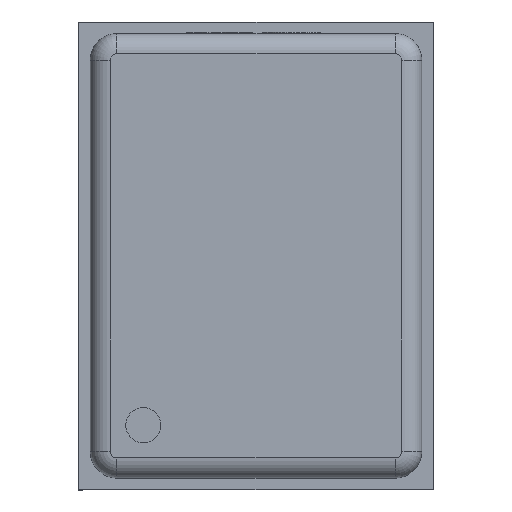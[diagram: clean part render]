
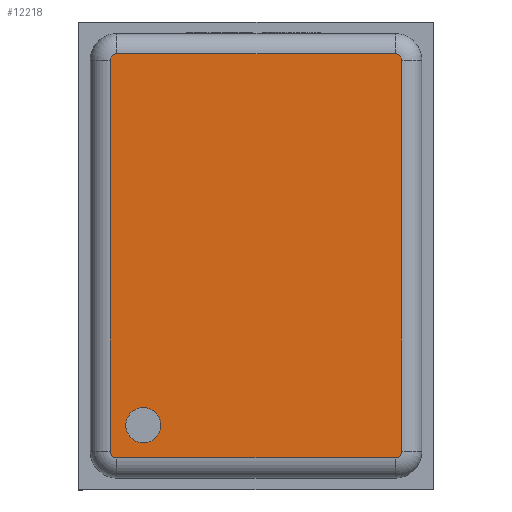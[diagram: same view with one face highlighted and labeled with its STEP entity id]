
A CAD part, top view. The second image highlights one B-rep face of the part: STEP entity #12218.
In plain terms, the highlighted planar face has unit normal (0, 0, 1).
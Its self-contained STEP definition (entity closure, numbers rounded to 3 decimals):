
#187 = EDGE_CURVE ( 'NONE', #7231, #10414, #8001, .T. ) ;
#200 = VERTEX_POINT ( 'NONE', #2856 ) ;
#438 = DIRECTION ( 'NONE',  ( 0., 0., -1. ) ) ;
#716 = EDGE_CURVE ( 'NONE', #11980, #10097, #11481, .T. ) ;
#808 = VERTEX_POINT ( 'NONE', #6894 ) ;
#1064 = DIRECTION ( 'NONE',  ( -1., 0., 0. ) ) ;
#1136 = CARTESIAN_POINT ( 'NONE',  ( 0., 0., 0.98 ) ) ;
#1150 = DIRECTION ( 'NONE',  ( 0., 0., 1. ) ) ;
#1200 = CIRCLE ( 'NONE', #4591, 0.05 ) ;
#1415 = EDGE_CURVE ( 'NONE', #6271, #10097, #6193, .T. ) ;
#1667 = CARTESIAN_POINT ( 'NONE',  ( -1.09, -1.462, 0.98 ) ) ;
#1689 = EDGE_CURVE ( 'NONE', #7231, #4308, #4529, .T. ) ;
#1989 = EDGE_CURVE ( 'NONE', #808, #12743, #1999, .T. ) ;
#1999 = CIRCLE ( 'NONE', #2614, 0.131 ) ;
#2364 = CARTESIAN_POINT ( 'NONE',  ( 1.04, -1.462, 0.98 ) ) ;
#2414 = EDGE_CURVE ( 'NONE', #4263, #4308, #9475, .T. ) ;
#2478 = LINE ( 'NONE', #12565, #6483 ) ;
#2614 = AXIS2_PLACEMENT_3D ( 'NONE', #7400, #1150, #9355 ) ;
#2856 = CARTESIAN_POINT ( 'NONE',  ( 1.04, -1.512, 0.98 ) ) ;
#2857 = ORIENTED_EDGE ( 'NONE', *, *, #10595, .T. ) ;
#3374 = ORIENTED_EDGE ( 'NONE', *, *, #187, .T. ) ;
#4216 = ORIENTED_EDGE ( 'NONE', *, *, #1415, .T. ) ;
#4263 = VERTEX_POINT ( 'NONE', #12463 ) ;
#4265 = DIRECTION ( 'NONE',  ( 0., 1., 0. ) ) ;
#4308 = VERTEX_POINT ( 'NONE', #10347 ) ;
#4529 = CIRCLE ( 'NONE', #12902, 0.05 ) ;
#4587 = EDGE_CURVE ( 'NONE', #4263, #200, #11062, .T. ) ;
#4591 = AXIS2_PLACEMENT_3D ( 'NONE', #7375, #5324, #6277 ) ;
#4736 = ORIENTED_EDGE ( 'NONE', *, *, #4587, .F. ) ;
#4798 = CARTESIAN_POINT ( 'NONE',  ( 1.04, 1.462, 0.98 ) ) ;
#4906 = VECTOR ( 'NONE', #4926, 1000. ) ;
#4926 = DIRECTION ( 'NONE',  ( -1., 0., 0. ) ) ;
#5107 = EDGE_CURVE ( 'NONE', #12743, #808, #11510, .T. ) ;
#5193 = EDGE_LOOP ( 'NONE', ( #9213, #2857, #4736, #9519, #11507, #3374, #9946, #4216 ) ) ;
#5233 = AXIS2_PLACEMENT_3D ( 'NONE', #11330, #11389, #6226 ) ;
#5324 = DIRECTION ( 'NONE',  ( 0., 0., -1. ) ) ;
#5854 = CARTESIAN_POINT ( 'NONE',  ( -1.04, 1.512, 0.98 ) ) ;
#5898 = DIRECTION ( 'NONE',  ( -1., 0., 0. ) ) ;
#6102 = CARTESIAN_POINT ( 'NONE',  ( -1.09, 1.462, 0.98 ) ) ;
#6193 = LINE ( 'NONE', #11013, #11028 ) ;
#6226 = DIRECTION ( 'NONE',  ( -1., 0., 0. ) ) ;
#6271 = VERTEX_POINT ( 'NONE', #6102 ) ;
#6277 = DIRECTION ( 'NONE',  ( -1., 0., 0. ) ) ;
#6464 = CARTESIAN_POINT ( 'NONE',  ( -0.712, -1.267, 0.98 ) ) ;
#6483 = VECTOR ( 'NONE', #11648, 1000. ) ;
#6894 = CARTESIAN_POINT ( 'NONE',  ( -0.974, -1.267, 0.98 ) ) ;
#6979 = FACE_BOUND ( 'NONE', #7101, .T. ) ;
#7101 = EDGE_LOOP ( 'NONE', ( #8738, #12584 ) ) ;
#7231 = VERTEX_POINT ( 'NONE', #9218 ) ;
#7375 = CARTESIAN_POINT ( 'NONE',  ( -1.04, 1.462, 0.98 ) ) ;
#7400 = CARTESIAN_POINT ( 'NONE',  ( -0.843, -1.267, 0.98 ) ) ;
#7556 = DIRECTION ( 'NONE',  ( 0., 0., -1. ) ) ;
#7585 = VECTOR ( 'NONE', #4265, 1000. ) ;
#7600 = EDGE_CURVE ( 'NONE', #6271, #10414, #1200, .T. ) ;
#7705 = CARTESIAN_POINT ( 'NONE',  ( -1.04, -1.462, 0.98 ) ) ;
#7826 = AXIS2_PLACEMENT_3D ( 'NONE', #2364, #7556, #9588 ) ;
#8001 = LINE ( 'NONE', #8857, #4906 ) ;
#8738 = ORIENTED_EDGE ( 'NONE', *, *, #1989, .F. ) ;
#8857 = CARTESIAN_POINT ( 'NONE',  ( -1.24, 1.512, 0.98 ) ) ;
#8937 = DIRECTION ( 'NONE',  ( 0., 0., -1. ) ) ;
#8997 = FACE_OUTER_BOUND ( 'NONE', #5193, .T. ) ;
#9213 = ORIENTED_EDGE ( 'NONE', *, *, #716, .F. ) ;
#9218 = CARTESIAN_POINT ( 'NONE',  ( 1.04, 1.512, 0.98 ) ) ;
#9355 = DIRECTION ( 'NONE',  ( -1., 0., 0. ) ) ;
#9475 = LINE ( 'NONE', #12546, #7585 ) ;
#9519 = ORIENTED_EDGE ( 'NONE', *, *, #2414, .T. ) ;
#9588 = DIRECTION ( 'NONE',  ( -1., 0., 0. ) ) ;
#9927 = DIRECTION ( 'NONE',  ( 0., -1., 0. ) ) ;
#9946 = ORIENTED_EDGE ( 'NONE', *, *, #7600, .F. ) ;
#10097 = VERTEX_POINT ( 'NONE', #1667 ) ;
#10198 = AXIS2_PLACEMENT_3D ( 'NONE', #7705, #438, #10762 ) ;
#10347 = CARTESIAN_POINT ( 'NONE',  ( 1.09, 1.462, 0.98 ) ) ;
#10414 = VERTEX_POINT ( 'NONE', #5854 ) ;
#10595 = EDGE_CURVE ( 'NONE', #11980, #200, #2478, .T. ) ;
#10762 = DIRECTION ( 'NONE',  ( -1., 0., 0. ) ) ;
#11013 = CARTESIAN_POINT ( 'NONE',  ( -1.09, -1.662, 0.98 ) ) ;
#11028 = VECTOR ( 'NONE', #9927, 1000. ) ;
#11062 = CIRCLE ( 'NONE', #7826, 0.05 ) ;
#11113 = PLANE ( 'NONE',  #13246 ) ;
#11330 = CARTESIAN_POINT ( 'NONE',  ( -0.843, -1.267, 0.98 ) ) ;
#11389 = DIRECTION ( 'NONE',  ( 0., 0., 1. ) ) ;
#11481 = CIRCLE ( 'NONE', #10198, 0.05 ) ;
#11507 = ORIENTED_EDGE ( 'NONE', *, *, #1689, .F. ) ;
#11510 = CIRCLE ( 'NONE', #5233, 0.131 ) ;
#11648 = DIRECTION ( 'NONE',  ( 1., 0., 0. ) ) ;
#11980 = VERTEX_POINT ( 'NONE', #12317 ) ;
#12218 = ADVANCED_FACE ( 'NONE', ( #6979, #8997 ), #11113, .T. ) ;
#12317 = CARTESIAN_POINT ( 'NONE',  ( -1.04, -1.512, 0.98 ) ) ;
#12463 = CARTESIAN_POINT ( 'NONE',  ( 1.09, -1.462, 0.98 ) ) ;
#12546 = CARTESIAN_POINT ( 'NONE',  ( 1.09, 1.662, 0.98 ) ) ;
#12565 = CARTESIAN_POINT ( 'NONE',  ( 1.24, -1.512, 0.98 ) ) ;
#12584 = ORIENTED_EDGE ( 'NONE', *, *, #5107, .F. ) ;
#12743 = VERTEX_POINT ( 'NONE', #6464 ) ;
#12902 = AXIS2_PLACEMENT_3D ( 'NONE', #4798, #8937, #5898 ) ;
#13246 = AXIS2_PLACEMENT_3D ( 'NONE', #1136, #13283, #1064 ) ;
#13283 = DIRECTION ( 'NONE',  ( 0., 0., 1. ) ) ;
